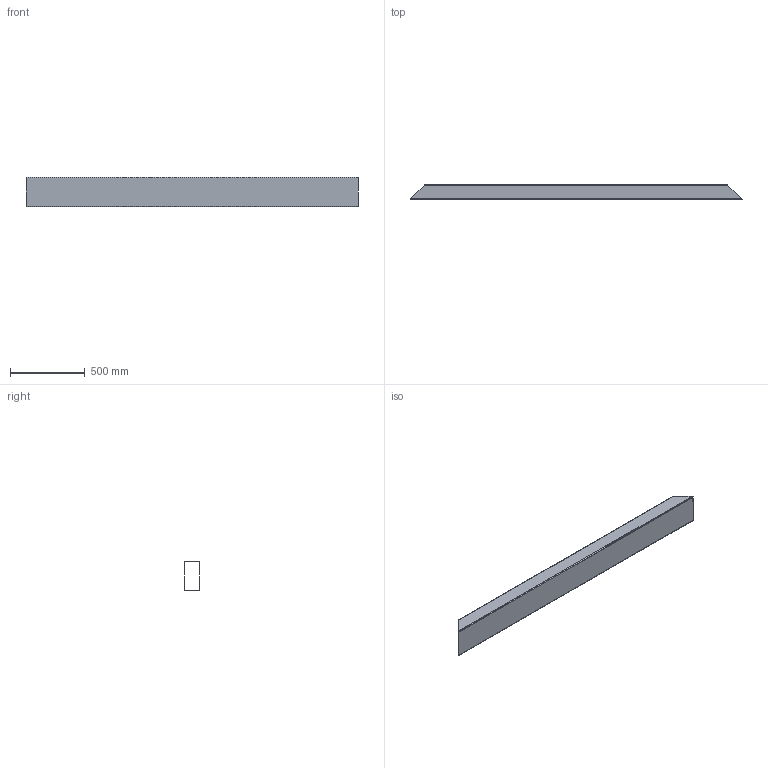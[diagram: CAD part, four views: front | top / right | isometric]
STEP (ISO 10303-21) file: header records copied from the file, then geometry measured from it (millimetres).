
FILE_DESCRIPTION(/* description */ (''),/* implementation_level */ '2;1');
FILE_NAME(/* name */ '2020TOMO-TELAIO-ASSY.00_v12-Part_03.stp',/* time_stamp */ '2022-05-16T13:30:50+02:00',/* author */ (''),/* organization */ (''),/* preprocessor_version */ 'ST-DEVELOPER v18.102',/* originating_system */ 'SIEMENS PLM Software NX 2000',/* authorisation */ '');
FILE_SCHEMA (('AUTOMOTIVE_DESIGN { 1 0 10303 214 3 1 1 1 }'));
Length unit declared in the file: millimetre
Products named in the file (1): turc3144724Fyy4s
Bounding box: 2220 x 100 x 200 mm (x, y, z)
Volume: 3690544.5 mm3; surface area: 2465287 mm2
Topology: 1 solids, 1 shells, 22 faces, 60 edges, 40 vertices
Faces by surface type: cylinder 12, plane 10
Entity records: 820 total; most frequent: CARTESIAN_POINT 231, ORIENTED_EDGE 120, DIRECTION 110, EDGE_CURVE 60, VERTEX_POINT 40, AXIS2_PLACEMENT_3D 39, LINE 32, VECTOR 32
